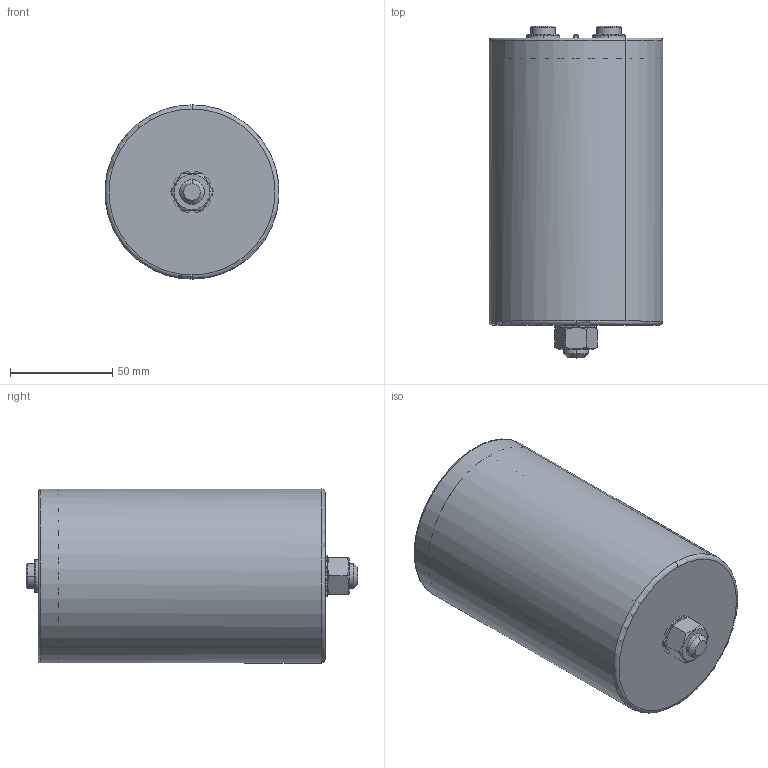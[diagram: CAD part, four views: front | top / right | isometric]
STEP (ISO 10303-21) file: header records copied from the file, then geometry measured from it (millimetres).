
FILE_DESCRIPTION (( 'STEP AP203' ), '1' );
FILE_NAME ('B25690Ax_85x140_146.STEP', '2021-08-30T08:28:17', ( '' ), ( '' ), 'SwSTEP 2.0', 'SolidWorks 2017', '' );
FILE_SCHEMA (( 'CONFIG_CONTROL_DESIGN' ));
Length unit declared in the file: millimetre
Products named in the file (1): B25690Ax_85x140_146
Bounding box: 84.88 x 162 x 85 mm (x, y, z)
Volume: 101223.5 mm3; surface area: 108724.5 mm2
Topology: 1 solids, 3 shells, 260 faces, 678 edges, 434 vertices
Faces by surface type: plane 122, cylinder 71, cone 41, torus 26
Entity records: 8399 total; most frequent: CARTESIAN_POINT 2041, ORIENTED_EDGE 1356, DIRECTION 1336, EDGE_CURVE 678, AXIS2_PLACEMENT_3D 537, VERTEX_POINT 434, CIRCLE 276, EDGE_LOOP 272
